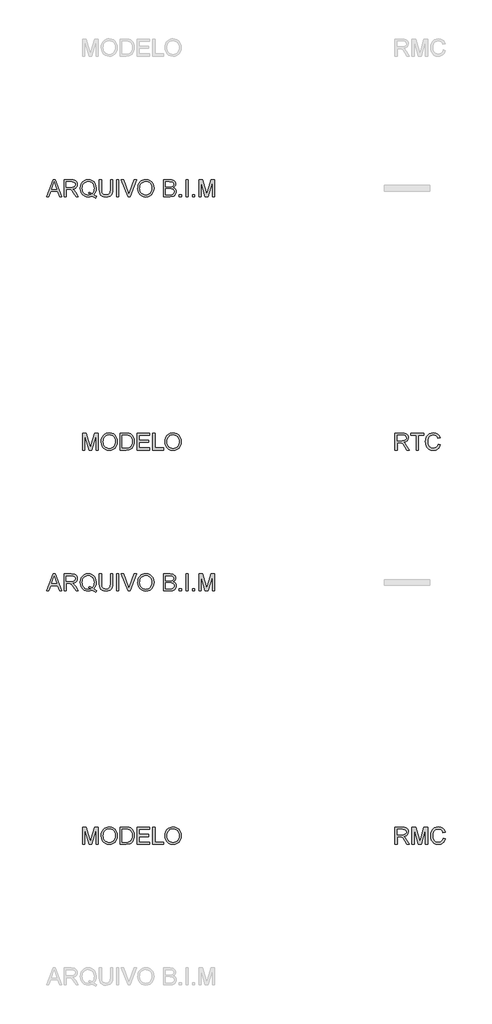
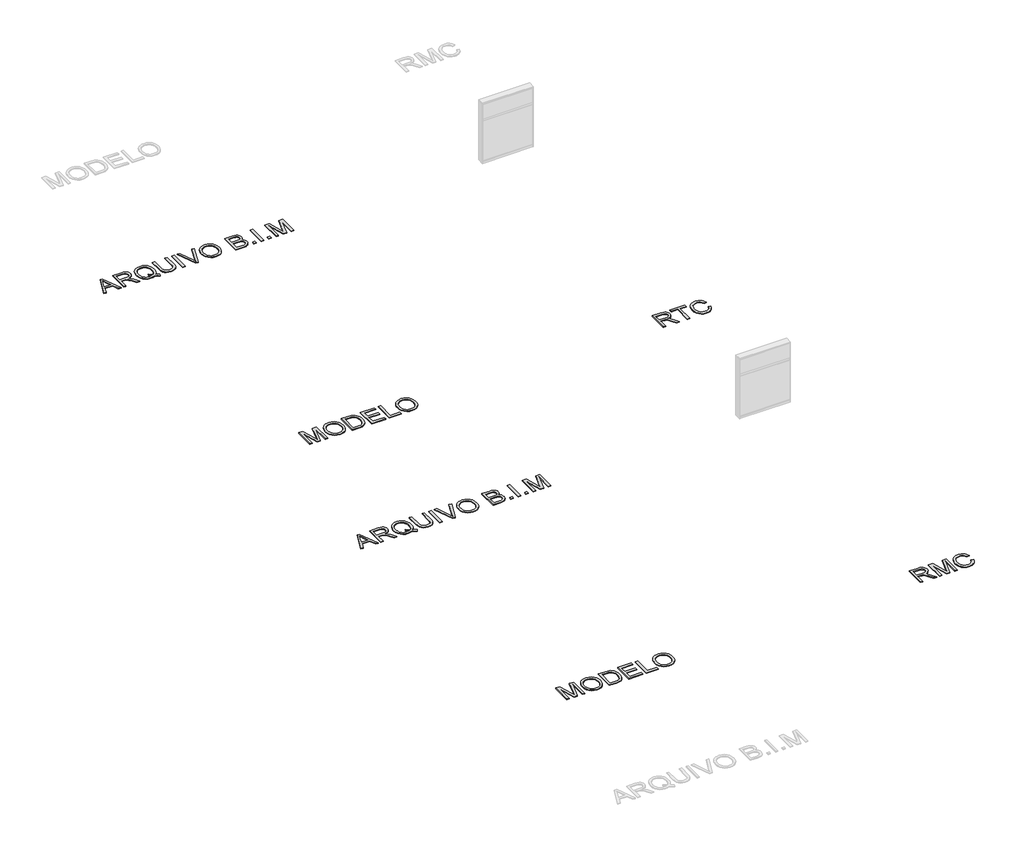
# One storey, part 10 of 15: 6 proxies.
"""IFC4 building model written with IfcOpenShell, lengths in millimetres."""

from ifc_helpers import new_model, si_unit, origin, origin_with_axes, place, context, project, spatial, polyline, outline, extrude, element, save

model = new_model("IFC4")

# Units and contexts
model_context = context("Model", 3, world=origin())
ifc_project = project(units=[si_unit("LENGTHUNIT", "METRE", prefix="MILLI")], contexts=[model_context])

# Site, building, storey
site = spatial("IfcSite", under=ifc_project)
building = spatial("IfcBuilding", under=site)
storey = spatial("IfcBuildingStorey", under=building, Name="Marelli - Linha REASONS - Planta Baixa", Elevation=0.0)

# Proxies
placement = place(None, origin())
element("IfcBuildingElementProxy", 1, Name="300mm Arial", ObjectType="300mm Arial", at=placement, inside=storey, context=model_context, shape_type="SweptSolid", body=[
    extrude(outline(polyline([(9390.580402, -56280.5663201), (9510.8778144, -55979.1973896), (9542.9571244, -55979.1973896), (9663.2545368, -56280.5663201), (9623.449705, -56280.5663201), (9588.9423738, -56186.3885293), (9464.8189886, -56186.3885293), (9430.3852339, -56280.5663201), (9390.580402, -56280.5663201)]), holes=[polyline([(9478.6513517, -56148.717413), (9575.1835872, -56148.717413), (9548.0338959, -56074.6259792), (9526.9174694, -56016.8685059), (9508.1554877, -56068.1512561), (9478.6513517, -56148.717413)])]), origin_with_axes(), (0.0, 0.0, 1.0), 10.0),
    extrude(outline(polyline([(9703.5008271, -56280.5663201), (9703.5008271, -55979.1973896), (9833.3631714, -55979.1973896), (9868.2659757, -55981.2299376), (9893.6590304, -55987.3275817), (9912.2186771, -55998.5847708), (9926.6212572, -56016.0959537), (9935.8642923, -56037.8101885), (9938.945304, -56061.6765329), (9933.8409413, -56091.3646099), (9918.5278533, -56115.9759154), (9906.9280741, -56126.0052983), (9892.5461874, -56134.0205273), (9855.4360911, -56144.0085235), (9876.8468232, -56160.1217548), (9907.3810288, -56198.8965171), (9957.6337094, -56280.5663201), (9913.855752, -56280.5663201), (9874.6395313, -56218.0999573), (9846.3126176, -56176.750021), (9826.4102017, -56157.2154871), (9808.4943485, -56150.0417882), (9786.642158, -56148.717413), (9741.1719434, -56148.717413), (9741.1719434, -56280.5663201), (9703.5008271, -56280.5663201)]), holes=[polyline([(9741.1719434, -56111.0462967), (9825.4904967, -56111.0462967), (9849.706329, -56109.7127245), (9868.4959019, -56105.7120078), (9882.6409647, -56098.7774322), (9892.9232664, -56088.6422832), (9899.1864574, -56076.3826157), (9901.2741877, -56063.0744845), (9897.2918651, -56044.6987789), (9885.3448973, -56029.8915286), (9864.7894908, -56020.1242616), (9834.9818522, -56016.8685059), (9741.1719434, -56016.8685059), (9741.1719434, -56111.0462967)])]), origin_with_axes(), (0.0, 0.0, 1.0), 10.0),
    extrude(outline(polyline([(10231.2643374, -56244.4403081), (10255.5997314, -56263.036743), (10277.9853508, -56275.8574305), (10267.8318077, -56303.4485802), (10236.7641732, -56289.0460001), (10205.8069033, -56268.205485), (10170.9500843, -56281.0077785), (10132.5983863, -56285.2752096), (10094.0627473, -56280.3547879), (10059.2427164, -56265.5935229), (10030.0788713, -56241.9203165), (10008.5117893, -56210.2640708), (9995.185264, -56172.3630282), (9990.7430889, -56129.9554312), (9995.176067, -56087.511046), (10008.4750011, -56049.0581805), (10029.9593096, -56016.9512794), (10058.9484108, -55993.5447874), (10093.639683, -55979.2525719), (10132.2305043, -55974.4885001), (10171.1248282, -55979.3629365), (10205.9908443, -55993.9862458), (10234.9339603, -56017.3835407), (10256.0595839, -56048.5799339), (10268.9722419, -56085.9199564), (10273.2764612, -56127.7481393), (10270.6644991, -56162.5313819), (10262.8286126, -56193.5990164), (10249.7136194, -56220.9142546), (10231.2643374, -56244.4403081)]), holes=[polyline([(10142.9726585, -56194.3347804), (10174.6472983, -56206.3093393), (10200.215097, -56222.9559996), (10215.6983305, -56205.4816049), (10226.7577829, -56184.1076609), (10233.3934544, -56158.8341679), (10235.6053449, -56129.6611256), (10232.478348, -56096.5057608), (10223.0973571, -56067.8201623), (10207.6922985, -56044.3308969), (10186.4930986, -56026.7645316), (10160.934497, -56015.8108452), (10132.4512335, -56012.1596164), (10110.966925, -56014.0059242), (10091.3956028, -56019.5448474), (10073.7372671, -56028.7763863), (10057.9919177, -56041.7005406), (10045.0516685, -56058.2897193), (10035.8086334, -56078.5163313), (10030.2628123, -56102.3803764), (10028.4142052, -56129.8818548), (10030.2421189, -56156.6659634), (10035.7258599, -56180.1437324), (10044.8654282, -56200.3151621), (10057.6608239, -56217.1802523), (10073.2981079, -56230.4906827), (10090.9633415, -56239.9981331), (10110.6565245, -56245.7026032), (10132.3776571, -56247.6040933), (10153.2917485, -56245.6727128), (10172.918253, -56239.8785714), (10153.6228423, -56229.853787), (10133.2605739, -56223.1767288), (10142.9726585, -56194.3347804)])]), origin_with_axes(), (0.0, 0.0, 1.0), 10.0),
    extrude(outline(polyline([(10527.5564963, -55979.1973896), (10565.2276126, -55979.1973896), (10565.2276126, -56153.0584205), (10562.6708327, -56193.7737604), (10555.0004931, -56225.1265034), (10540.6714894, -56249.3147446), (10518.1387172, -56268.5365788), (10487.3469942, -56281.0905519), (10448.2411381, -56285.2752096), (10409.9906077, -56281.6331779), (10379.4104168, -56270.7070826), (10356.4913685, -56252.8740029), (10341.2242657, -56228.5110178), (10332.6434182, -56195.8338995), (10329.7831357, -56153.0584205), (10329.7831357, -55979.1973896), (10367.454252, -55979.1973896), (10367.454252, -56151.7340454), (10369.3120561, -56185.588386), (10374.8854683, -56209.1604248), (10384.9838291, -56225.4851883), (10400.4164788, -56237.597703), (10420.5396239, -56245.1024957), (10444.709471, -56247.6040933), (10483.0243808, -56242.6560805), (10497.3671801, -56236.4710644), (10508.500209, -56227.812042), (10516.8373347, -56215.6351479), (10522.7924245, -56198.8965171), (10527.5564963, -56151.7340454), (10527.5564963, -55979.1973896)])), origin_with_axes(), (0.0, 0.0, 1.0), 10.0),
    extrude(outline(polyline([(10635.8609557, -56280.5663201), (10635.8609557, -55979.1973896), (10673.532072, -55979.1973896), (10673.532072, -56280.5663201), (10635.8609557, -56280.5663201)])), origin_with_axes(), (0.0, 0.0, 1.0), 10.0),
    extrude(outline(polyline([(10837.9017474, -56280.5663201), (10717.972217, -55979.1973896), (10758.2920837, -55979.1973896), (10838.563935, -56196.3213432), (10854.8243192, -56245.2496485), (10870.8639742, -56196.3213432), (10951.3565547, -55979.1973896), (10991.6764214, -55979.1973896), (10876.8236625, -56280.5663201), (10837.9017474, -56280.5663201)])), origin_with_axes(), (0.0, 0.0, 1.0), 10.0),
    extrude(outline(polyline([(11012.5721187, -56133.8549804), (11015.0829134, -56098.5061192), (11022.6152972, -56067.213157), (11035.1692703, -56039.9760937), (11052.7448326, -56016.7949295), (11074.288922, -55998.2858666), (11098.7484761, -55985.0651074), (11126.1234951, -55977.1326519), (11156.4139789, -55974.4885001), (11195.9428992, -55979.454907), (11231.3883295, -55994.3541278), (11260.8188891, -56018.1376988), (11282.3031976, -56049.7571563), (11295.4365848, -56087.68579), (11299.8143806, -56130.3968896), (11295.2066586, -56173.6782064), (11281.3834926, -56212.140269), (11259.1082378, -56243.8149088), (11229.1442493, -56266.733957), (11194.0023217, -56280.6398965), (11156.1932497, -56285.2752096), (11116.057324, -56280.1524528), (11080.4095587, -56264.7841825), (11051.0525754, -56240.5591531), (11029.7889961, -56208.8661192), (11016.8763381, -56172.3998164), (11012.5721187, -56133.8549804)]), holes=[polyline([(11050.2432351, -56134.2228624), (11052.126331, -56159.1974513), (11057.7756189, -56181.3669401), (11067.1910987, -56200.7313286), (11080.3727705, -56217.2906169), (11096.3963306, -56230.5527628), (11114.3374757, -56240.0257242), (11134.1962056, -56245.709501), (11155.9725205, -56247.6040933), (11178.1213158, -56245.6911069), (11198.2145706, -56239.9521478), (11216.2522846, -56230.3872159), (11232.2344581, -56216.9963113), (11245.3195608, -56200.0875351), (11254.6660627, -56179.9689885), (11260.2739639, -56156.6406715), (11262.1432643, -56130.102584), (11258.9426909, -56096.7540812), (11249.3409708, -56067.9305269), (11233.5864244, -56044.358488), (11211.9273719, -56026.7645316), (11185.7985532, -56015.8108452), (11156.6347081, -56012.1596164), (11135.6148506, -56013.9185522), (11116.1125063, -56019.1953595), (11098.1276752, -56027.9900385), (11081.6603574, -56040.302589), (11067.9153664, -56056.7262208), (11058.0975156, -56077.8541437), (11052.2068052, -56103.6863575), (11050.2432351, -56134.2228624)])]), origin_with_axes(), (0.0, 0.0, 1.0), 10.0),
    extrude(outline(polyline([(11469.334404, -56280.5663201), (11469.334404, -55979.1973896), (11584.3343156, -55979.1973896), (11615.9629702, -55981.4138786), (11640.6570491, -55988.0633457), (11659.5845778, -55999.3113377), (11673.9135815, -56015.3234015), (11682.9358874, -56034.1589597), (11685.9433227, -56053.8774346), (11683.414134, -56072.0232141), (11675.8265679, -56089.0837416), (11663.125442, -56104.0105535), (11645.2555741, -56115.7551862), (11666.6019268, -56126.9020107), (11682.3748674, -56143.8613707), (11692.1145432, -56165.5112261), (11695.3611018, -56190.7295368), (11693.1446128, -56211.7447958), (11686.4951457, -56231.2333445), (11676.5715289, -56247.8064284), (11664.5325906, -56260.0752929), (11649.7897196, -56268.9596431), (11631.7543048, -56275.3791839), (11583.4513989, -56280.5663201), (11469.334404, -56280.5663201)]), holes=[polyline([(11507.0055203, -56101.6285176), (11575.7994534, -56101.6285176), (11615.9721672, -56098.3911561), (11630.0344565, -56092.8085468), (11640.1420143, -56084.4484284), (11646.2396584, -56073.4395597), (11648.2722064, -56059.9106994), (11646.3776141, -56046.7773121), (11640.6938373, -56035.3361821), (11631.4783933, -56026.4058467), (11618.9887996, -56020.8048433), (11570.575529, -56016.8685059), (11507.0055203, -56016.8685059), (11507.0055203, -56101.6285176)]), polyline([(11507.0055203, -56242.8952038), (11584.2607393, -56242.8952038), (11612.2197709, -56241.4236758), (11635.8745832, -56233.2199073), (11651.5463562, -56216.4812765), (11656.1540782, -56204.6538704), (11657.6899855, -56191.0974188), (11655.8873637, -56175.3520694), (11650.4794984, -56161.814012), (11641.0341282, -56151.2282076), (11627.1189917, -56144.3396173), (11607.4097138, -56140.5596298), (11580.5819193, -56139.2996339), (11507.0055203, -56139.2996339), (11507.0055203, -56242.8952038)])]), origin_with_axes(), (0.0, 0.0, 1.0), 10.0),
    extrude(outline(polyline([(11751.8677763, -56280.5663201), (11751.8677763, -56242.8952038), (11789.5388926, -56242.8952038), (11789.5388926, -56280.5663201), (11751.8677763, -56280.5663201)])), origin_with_axes(), (0.0, 0.0, 1.0), 10.0),
    extrude(outline(polyline([(11869.5900147, -56280.5663201), (11869.5900147, -55979.1973896), (11907.261131, -55979.1973896), (11907.261131, -56280.5663201), (11869.5900147, -56280.5663201)])), origin_with_axes(), (0.0, 0.0, 1.0), 10.0),
    extrude(outline(polyline([(11987.3122532, -56280.5663201), (11987.3122532, -56242.8952038), (12024.9833695, -56242.8952038), (12024.9833695, -56280.5663201), (11987.3122532, -56280.5663201)])), origin_with_axes(), (0.0, 0.0, 1.0), 10.0),
    extrude(outline(polyline([(12100.3256021, -56280.5663201), (12100.3256021, -55979.1973896), (12165.1464096, -55979.1973896), (12226.803432, -56191.6124536), (12239.2378435, -56235.9790223), (12252.7023245, -56187.9336337), (12313.3292773, -55979.1973896), (12378.1500848, -55979.1973896), (12378.1500848, -56280.5663201), (12340.4789685, -56280.5663201), (12340.4789685, -56016.8685059), (12264.7688539, -56280.5663201), (12213.706833, -56280.5663201), (12137.9967184, -56016.8685059), (12137.9967184, -56280.5663201), (12100.3256021, -56280.5663201)])), origin_with_axes(), (0.0, 0.0, 1.0), 10.0),
])
element("IfcBuildingElementProxy", 2, Name="300mm Arial", ObjectType="300mm Arial", at=placement, inside=storey, context=model_context, shape_type="SweptSolid", body=[
    extrude(outline(polyline([(10033.1230948, -53780.5663201), (10033.1230948, -53479.1973896), (10097.9439023, -53479.1973896), (10159.6009247, -53691.6124536), (10172.0353362, -53735.9790223), (10185.4998172, -53687.9336337), (10246.12677, -53479.1973896), (10310.9475775, -53479.1973896), (10310.9475775, -53780.5663201), (10273.2764612, -53780.5663201), (10273.2764612, -53516.8685059), (10197.5663466, -53780.5663201), (10146.5043257, -53780.5663201), (10070.7942111, -53516.8685059), (10070.7942111, -53780.5663201), (10033.1230948, -53780.5663201)])), origin_with_axes(), (0.0, 0.0, 1.0), 10.0),
    extrude(outline(polyline([(10362.7453625, -53633.8549804), (10365.2561571, -53598.5061192), (10372.7885409, -53567.213157), (10385.342514, -53539.9760937), (10402.9180763, -53516.7949295), (10424.4621657, -53498.2858666), (10448.9217198, -53485.0651074), (10476.2967388, -53477.1326519), (10506.5872226, -53474.4885001), (10546.116143, -53479.454907), (10581.5615732, -53494.3541278), (10610.9921328, -53518.1376988), (10632.4764413, -53549.7571563), (10645.6098286, -53587.68579), (10649.9876243, -53630.3968896), (10645.3799023, -53673.6782064), (10631.5567363, -53712.140269), (10609.2814815, -53743.8149088), (10579.317493, -53766.733957), (10544.1755654, -53780.6398965), (10506.3664934, -53785.2752096), (10466.2305677, -53780.1524528), (10430.5828024, -53764.7841825), (10401.2258192, -53740.5591531), (10379.9622398, -53708.8661192), (10367.0495818, -53672.3998164), (10362.7453625, -53633.8549804)]), holes=[polyline([(10400.4164788, -53634.2228624), (10402.2995747, -53659.1974513), (10407.9488626, -53681.3669401), (10417.3643424, -53700.7313286), (10430.5460142, -53717.2906169), (10446.5695743, -53730.5527628), (10464.5107194, -53740.0257242), (10484.3694493, -53745.709501), (10506.1457642, -53747.6040933), (10528.2945596, -53745.6911069), (10548.3878143, -53739.9521478), (10566.4255284, -53730.3872159), (10582.4077018, -53716.9963113), (10595.4928045, -53700.0875351), (10604.8393064, -53679.9689885), (10610.4472076, -53656.6406715), (10612.316508, -53630.102584), (10609.1159346, -53596.7540812), (10599.5142146, -53567.9305269), (10583.7596681, -53544.358488), (10562.1006157, -53526.7645316), (10535.9717969, -53515.8108452), (10506.8079518, -53512.1596164), (10485.7880943, -53513.9185522), (10466.28575, -53519.1953595), (10448.300919, -53527.9900385), (10431.8336012, -53540.302589), (10418.0886101, -53556.7262208), (10408.2707594, -53577.8541437), (10402.3800489, -53603.6863575), (10400.4164788, -53634.2228624)])]), origin_with_axes(), (0.0, 0.0, 1.0), 10.0),
    extrude(outline(polyline([(10701.7854092, -53780.5663201), (10701.7854092, -53479.1973896), (10805.7488611, -53479.1973896), (10859.5332088, -53483.5383972), (10883.555903, -53491.9077126), (10903.826201, -53505.0962821), (10924.666716, -53528.0521186), (10939.5107545, -53556.5997614), (10948.3951047, -53590.1873876), (10951.3565547, -53628.2631741), (10949.3515979, -53660.6091985), (10943.3367273, -53689.0740679), (10934.1764656, -53713.3082943), (10922.7353355, -53732.9623899), (10909.5651601, -53748.477813), (10895.2177623, -53760.2960221), (10878.745846, -53769.0608107), (10859.202115, -53775.4159721), (10810.7520562, -53780.5663201), (10701.7854092, -53780.5663201)]), holes=[polyline([(10739.4565255, -53742.8952038), (10806.1167431, -53742.8952038), (10833.6894986, -53741.5340404), (10854.60359, -53737.4505502), (10870.3857276, -53730.8838566), (10882.5626217, -53722.0730828), (10895.6500236, -53705.7667134), (10905.48167, -53684.6594839), (10911.6344963, -53658.6594239), (10913.6854384, -53627.6745629), (10909.6663276, -53586.6189322), (10897.6089953, -53556.3054558), (10879.7943096, -53535.4833349), (10858.5031392, -53522.9017706), (10836.8348897, -53518.3768221), (10805.0866735, -53516.8685059), (10739.4565255, -53516.8685059), (10739.4565255, -53742.8952038)])]), origin_with_axes(), (0.0, 0.0, 1.0), 10.0),
    extrude(outline(polyline([(11003.1543397, -53780.5663201), (11003.1543397, -53479.1973896), (11219.7632584, -53479.1973896), (11219.7632584, -53516.8685059), (11040.825456, -53516.8685059), (11040.825456, -53606.3374072), (11210.3454794, -53606.3374072), (11210.3454794, -53644.0085235), (11040.825456, -53644.0085235), (11040.825456, -53742.8952038), (11224.472148, -53742.8952038), (11224.472148, -53780.5663201), (11003.1543397, -53780.5663201)])), origin_with_axes(), (0.0, 0.0, 1.0), 10.0),
    extrude(outline(polyline([(11280.9788224, -53780.5663201), (11280.9788224, -53479.1973896), (11318.6499387, -53479.1973896), (11318.6499387, -53742.8952038), (11469.334404, -53742.8952038), (11469.334404, -53780.5663201), (11280.9788224, -53780.5663201)])), origin_with_axes(), (0.0, 0.0, 1.0), 10.0),
    extrude(outline(polyline([(11497.5877412, -53633.8549804), (11500.0985358, -53598.5061192), (11507.6309197, -53567.213157), (11520.1848927, -53539.9760937), (11537.7604551, -53516.7949295), (11559.3045444, -53498.2858666), (11583.7640986, -53485.0651074), (11611.1391175, -53477.1326519), (11641.4296013, -53474.4885001), (11680.9585217, -53479.454907), (11716.4039519, -53494.3541278), (11745.8345115, -53518.1376988), (11767.3188201, -53549.7571563), (11780.4522073, -53587.68579), (11784.830003, -53630.3968896), (11780.222281, -53673.6782064), (11766.3991151, -53712.140269), (11744.1238603, -53743.8149088), (11714.1598717, -53766.733957), (11679.0179442, -53780.6398965), (11641.2088721, -53785.2752096), (11601.0729464, -53780.1524528), (11565.4251811, -53764.7841825), (11536.0681979, -53740.5591531), (11514.8046186, -53708.8661192), (11501.8919605, -53672.3998164), (11497.5877412, -53633.8549804)]), holes=[polyline([(11535.2588575, -53634.2228624), (11537.1419535, -53659.1974513), (11542.7912413, -53681.3669401), (11552.2067212, -53700.7313286), (11565.3883929, -53717.2906169), (11581.4119531, -53730.5527628), (11599.3530981, -53740.0257242), (11619.2118281, -53745.709501), (11640.9881429, -53747.6040933), (11663.1369383, -53745.6911069), (11683.230193, -53739.9521478), (11701.2679071, -53730.3872159), (11717.2500805, -53716.9963113), (11730.3351832, -53700.0875351), (11739.6816852, -53679.9689885), (11745.2895863, -53656.6406715), (11747.1588867, -53630.102584), (11743.9583134, -53596.7540812), (11734.3565933, -53567.9305269), (11718.6020468, -53544.358488), (11696.9429944, -53526.7645316), (11670.8141757, -53515.8108452), (11641.6503305, -53512.1596164), (11620.630473, -53513.9185522), (11601.1281287, -53519.1953595), (11583.1432977, -53527.9900385), (11566.6759799, -53540.302589), (11552.9309888, -53556.7262208), (11543.1131381, -53577.8541437), (11537.2224276, -53603.6863575), (11535.2588575, -53634.2228624)])]), origin_with_axes(), (0.0, 0.0, 1.0), 10.0),
])
element("IfcBuildingElementProxy", 3, Name="300mm Arial", ObjectType="300mm Arial", at=placement, inside=storey, context=model_context, shape_type="SweptSolid", body=[
    extrude(outline(polyline([(9390.580402, -49280.5663201), (9510.8778144, -48979.1973896), (9542.9571244, -48979.1973896), (9663.2545368, -49280.5663201), (9623.449705, -49280.5663201), (9588.9423738, -49186.3885293), (9464.8189886, -49186.3885293), (9430.3852339, -49280.5663201), (9390.580402, -49280.5663201)]), holes=[polyline([(9478.6513517, -49148.717413), (9575.1835872, -49148.717413), (9548.0338959, -49074.6259792), (9526.9174694, -49016.8685059), (9508.1554877, -49068.1512561), (9478.6513517, -49148.717413)])]), origin_with_axes(), (0.0, 0.0, 1.0), 10.0),
    extrude(outline(polyline([(9703.5008271, -49280.5663201), (9703.5008271, -48979.1973896), (9833.3631714, -48979.1973896), (9868.2659757, -48981.2299376), (9893.6590304, -48987.3275817), (9912.2186771, -48998.5847708), (9926.6212572, -49016.0959537), (9935.8642923, -49037.8101885), (9938.945304, -49061.6765329), (9933.8409413, -49091.3646099), (9918.5278533, -49115.9759154), (9906.9280741, -49126.0052983), (9892.5461874, -49134.0205273), (9855.4360911, -49144.0085235), (9876.8468232, -49160.1217548), (9907.3810288, -49198.8965171), (9957.6337094, -49280.5663201), (9913.855752, -49280.5663201), (9874.6395313, -49218.0999573), (9846.3126176, -49176.750021), (9826.4102017, -49157.2154871), (9808.4943485, -49150.0417882), (9786.642158, -49148.717413), (9741.1719434, -49148.717413), (9741.1719434, -49280.5663201), (9703.5008271, -49280.5663201)]), holes=[polyline([(9741.1719434, -49111.0462967), (9825.4904967, -49111.0462967), (9849.706329, -49109.7127245), (9868.4959019, -49105.7120078), (9882.6409647, -49098.7774322), (9892.9232664, -49088.6422832), (9899.1864574, -49076.3826157), (9901.2741877, -49063.0744845), (9897.2918651, -49044.6987789), (9885.3448973, -49029.8915286), (9864.7894908, -49020.1242616), (9834.9818522, -49016.8685059), (9741.1719434, -49016.8685059), (9741.1719434, -49111.0462967)])]), origin_with_axes(), (0.0, 0.0, 1.0), 10.0),
    extrude(outline(polyline([(10231.2643374, -49244.4403081), (10255.5997314, -49263.036743), (10277.9853508, -49275.8574305), (10267.8318077, -49303.4485802), (10236.7641732, -49289.0460001), (10205.8069033, -49268.205485), (10170.9500843, -49281.0077785), (10132.5983863, -49285.2752096), (10094.0627473, -49280.3547879), (10059.2427164, -49265.5935229), (10030.0788713, -49241.9203165), (10008.5117893, -49210.2640708), (9995.185264, -49172.3630282), (9990.7430889, -49129.9554312), (9995.176067, -49087.511046), (10008.4750011, -49049.0581805), (10029.9593096, -49016.9512794), (10058.9484108, -48993.5447874), (10093.639683, -48979.2525719), (10132.2305043, -48974.4885001), (10171.1248282, -48979.3629365), (10205.9908443, -48993.9862458), (10234.9339603, -49017.3835407), (10256.0595839, -49048.5799339), (10268.9722419, -49085.9199564), (10273.2764612, -49127.7481393), (10270.6644991, -49162.5313819), (10262.8286126, -49193.5990164), (10249.7136194, -49220.9142546), (10231.2643374, -49244.4403081)]), holes=[polyline([(10142.9726585, -49194.3347804), (10174.6472983, -49206.3093393), (10200.215097, -49222.9559996), (10215.6983305, -49205.4816049), (10226.7577829, -49184.1076609), (10233.3934544, -49158.8341679), (10235.6053449, -49129.6611256), (10232.478348, -49096.5057608), (10223.0973571, -49067.8201623), (10207.6922985, -49044.3308969), (10186.4930986, -49026.7645316), (10160.934497, -49015.8108452), (10132.4512335, -49012.1596164), (10110.966925, -49014.0059242), (10091.3956028, -49019.5448474), (10073.7372671, -49028.7763863), (10057.9919177, -49041.7005406), (10045.0516685, -49058.2897193), (10035.8086334, -49078.5163313), (10030.2628123, -49102.3803764), (10028.4142052, -49129.8818548), (10030.2421189, -49156.6659634), (10035.7258599, -49180.1437324), (10044.8654282, -49200.3151621), (10057.6608239, -49217.1802523), (10073.2981079, -49230.4906827), (10090.9633415, -49239.9981331), (10110.6565245, -49245.7026032), (10132.3776571, -49247.6040933), (10153.2917485, -49245.6727128), (10172.918253, -49239.8785714), (10153.6228423, -49229.853787), (10133.2605739, -49223.1767288), (10142.9726585, -49194.3347804)])]), origin_with_axes(), (0.0, 0.0, 1.0), 10.0),
    extrude(outline(polyline([(10527.5564963, -48979.1973896), (10565.2276126, -48979.1973896), (10565.2276126, -49153.0584205), (10562.6708327, -49193.7737604), (10555.0004931, -49225.1265034), (10540.6714894, -49249.3147446), (10518.1387172, -49268.5365788), (10487.3469942, -49281.0905519), (10448.2411381, -49285.2752096), (10409.9906077, -49281.6331779), (10379.4104168, -49270.7070826), (10356.4913685, -49252.8740029), (10341.2242657, -49228.5110178), (10332.6434182, -49195.8338995), (10329.7831357, -49153.0584205), (10329.7831357, -48979.1973896), (10367.454252, -48979.1973896), (10367.454252, -49151.7340454), (10369.3120561, -49185.588386), (10374.8854683, -49209.1604248), (10384.9838291, -49225.4851883), (10400.4164788, -49237.597703), (10420.5396239, -49245.1024957), (10444.709471, -49247.6040933), (10483.0243808, -49242.6560805), (10497.3671801, -49236.4710644), (10508.500209, -49227.812042), (10516.8373347, -49215.6351479), (10522.7924245, -49198.8965171), (10527.5564963, -49151.7340454), (10527.5564963, -48979.1973896)])), origin_with_axes(), (0.0, 0.0, 1.0), 10.0),
    extrude(outline(polyline([(10635.8609557, -49280.5663201), (10635.8609557, -48979.1973896), (10673.532072, -48979.1973896), (10673.532072, -49280.5663201), (10635.8609557, -49280.5663201)])), origin_with_axes(), (0.0, 0.0, 1.0), 10.0),
    extrude(outline(polyline([(10837.9017474, -49280.5663201), (10717.972217, -48979.1973896), (10758.2920837, -48979.1973896), (10838.563935, -49196.3213432), (10854.8243192, -49245.2496485), (10870.8639742, -49196.3213432), (10951.3565547, -48979.1973896), (10991.6764214, -48979.1973896), (10876.8236625, -49280.5663201), (10837.9017474, -49280.5663201)])), origin_with_axes(), (0.0, 0.0, 1.0), 10.0),
    extrude(outline(polyline([(11012.5721187, -49133.8549804), (11015.0829134, -49098.5061192), (11022.6152972, -49067.213157), (11035.1692703, -49039.9760937), (11052.7448326, -49016.7949295), (11074.288922, -48998.2858666), (11098.7484761, -48985.0651074), (11126.1234951, -48977.1326519), (11156.4139789, -48974.4885001), (11195.9428992, -48979.454907), (11231.3883295, -48994.3541278), (11260.8188891, -49018.1376988), (11282.3031976, -49049.7571563), (11295.4365848, -49087.68579), (11299.8143806, -49130.3968896), (11295.2066586, -49173.6782064), (11281.3834926, -49212.140269), (11259.1082378, -49243.8149088), (11229.1442493, -49266.733957), (11194.0023217, -49280.6398965), (11156.1932497, -49285.2752096), (11116.057324, -49280.1524528), (11080.4095587, -49264.7841825), (11051.0525754, -49240.5591531), (11029.7889961, -49208.8661192), (11016.8763381, -49172.3998164), (11012.5721187, -49133.8549804)]), holes=[polyline([(11050.2432351, -49134.2228624), (11052.126331, -49159.1974513), (11057.7756189, -49181.3669401), (11067.1910987, -49200.7313286), (11080.3727705, -49217.2906169), (11096.3963306, -49230.5527628), (11114.3374757, -49240.0257242), (11134.1962056, -49245.709501), (11155.9725205, -49247.6040933), (11178.1213158, -49245.6911069), (11198.2145706, -49239.9521478), (11216.2522846, -49230.3872159), (11232.2344581, -49216.9963113), (11245.3195608, -49200.0875351), (11254.6660627, -49179.9689885), (11260.2739639, -49156.6406715), (11262.1432643, -49130.102584), (11258.9426909, -49096.7540812), (11249.3409708, -49067.9305269), (11233.5864244, -49044.358488), (11211.9273719, -49026.7645316), (11185.7985532, -49015.8108452), (11156.6347081, -49012.1596164), (11135.6148506, -49013.9185522), (11116.1125063, -49019.1953595), (11098.1276752, -49027.9900385), (11081.6603574, -49040.302589), (11067.9153664, -49056.7262208), (11058.0975156, -49077.8541437), (11052.2068052, -49103.6863575), (11050.2432351, -49134.2228624)])]), origin_with_axes(), (0.0, 0.0, 1.0), 10.0),
    extrude(outline(polyline([(11469.334404, -49280.5663201), (11469.334404, -48979.1973896), (11584.3343156, -48979.1973896), (11615.9629702, -48981.4138786), (11640.6570491, -48988.0633457), (11659.5845778, -48999.3113377), (11673.9135815, -49015.3234015), (11682.9358874, -49034.1589597), (11685.9433227, -49053.8774346), (11683.414134, -49072.0232141), (11675.8265679, -49089.0837416), (11663.125442, -49104.0105535), (11645.2555741, -49115.7551862), (11666.6019268, -49126.9020107), (11682.3748674, -49143.8613707), (11692.1145432, -49165.5112261), (11695.3611018, -49190.7295368), (11693.1446128, -49211.7447958), (11686.4951457, -49231.2333445), (11676.5715289, -49247.8064284), (11664.5325906, -49260.0752929), (11649.7897196, -49268.9596431), (11631.7543048, -49275.3791839), (11583.4513989, -49280.5663201), (11469.334404, -49280.5663201)]), holes=[polyline([(11507.0055203, -49101.6285176), (11575.7994534, -49101.6285176), (11615.9721672, -49098.3911561), (11630.0344565, -49092.8085468), (11640.1420143, -49084.4484284), (11646.2396584, -49073.4395597), (11648.2722064, -49059.9106994), (11646.3776141, -49046.7773121), (11640.6938373, -49035.3361821), (11631.4783933, -49026.4058467), (11618.9887996, -49020.8048433), (11570.575529, -49016.8685059), (11507.0055203, -49016.8685059), (11507.0055203, -49101.6285176)]), polyline([(11507.0055203, -49242.8952038), (11584.2607393, -49242.8952038), (11612.2197709, -49241.4236758), (11635.8745832, -49233.2199073), (11651.5463562, -49216.4812765), (11656.1540782, -49204.6538704), (11657.6899855, -49191.0974188), (11655.8873637, -49175.3520694), (11650.4794984, -49161.814012), (11641.0341282, -49151.2282076), (11627.1189917, -49144.3396173), (11607.4097138, -49140.5596298), (11580.5819193, -49139.2996339), (11507.0055203, -49139.2996339), (11507.0055203, -49242.8952038)])]), origin_with_axes(), (0.0, 0.0, 1.0), 10.0),
    extrude(outline(polyline([(11751.8677763, -49280.5663201), (11751.8677763, -49242.8952038), (11789.5388926, -49242.8952038), (11789.5388926, -49280.5663201), (11751.8677763, -49280.5663201)])), origin_with_axes(), (0.0, 0.0, 1.0), 10.0),
    extrude(outline(polyline([(11869.5900147, -49280.5663201), (11869.5900147, -48979.1973896), (11907.261131, -48979.1973896), (11907.261131, -49280.5663201), (11869.5900147, -49280.5663201)])), origin_with_axes(), (0.0, 0.0, 1.0), 10.0),
    extrude(outline(polyline([(11987.3122532, -49280.5663201), (11987.3122532, -49242.8952038), (12024.9833695, -49242.8952038), (12024.9833695, -49280.5663201), (11987.3122532, -49280.5663201)])), origin_with_axes(), (0.0, 0.0, 1.0), 10.0),
    extrude(outline(polyline([(12100.3256021, -49280.5663201), (12100.3256021, -48979.1973896), (12165.1464096, -48979.1973896), (12226.803432, -49191.6124536), (12239.2378435, -49235.9790223), (12252.7023245, -49187.9336337), (12313.3292773, -48979.1973896), (12378.1500848, -48979.1973896), (12378.1500848, -49280.5663201), (12340.4789685, -49280.5663201), (12340.4789685, -49016.8685059), (12264.7688539, -49280.5663201), (12213.706833, -49280.5663201), (12137.9967184, -49016.8685059), (12137.9967184, -49280.5663201), (12100.3256021, -49280.5663201)])), origin_with_axes(), (0.0, 0.0, 1.0), 10.0),
])
element("IfcBuildingElementProxy", 4, Name="300mm Arial", ObjectType="300mm Arial", at=placement, inside=storey, context=model_context, shape_type="SweptSolid", body=[
    extrude(outline(polyline([(10033.1230948, -60780.5663201), (10033.1230948, -60479.1973896), (10097.9439023, -60479.1973896), (10159.6009247, -60691.6124536), (10172.0353362, -60735.9790223), (10185.4998172, -60687.9336337), (10246.12677, -60479.1973896), (10310.9475775, -60479.1973896), (10310.9475775, -60780.5663201), (10273.2764612, -60780.5663201), (10273.2764612, -60516.8685059), (10197.5663466, -60780.5663201), (10146.5043257, -60780.5663201), (10070.7942111, -60516.8685059), (10070.7942111, -60780.5663201), (10033.1230948, -60780.5663201)])), origin_with_axes(), (0.0, 0.0, 1.0), 10.0),
    extrude(outline(polyline([(10362.7453625, -60633.8549804), (10365.2561571, -60598.5061192), (10372.7885409, -60567.213157), (10385.342514, -60539.9760937), (10402.9180763, -60516.7949295), (10424.4621657, -60498.2858666), (10448.9217198, -60485.0651074), (10476.2967388, -60477.1326519), (10506.5872226, -60474.4885001), (10546.116143, -60479.454907), (10581.5615732, -60494.3541278), (10610.9921328, -60518.1376988), (10632.4764413, -60549.7571563), (10645.6098286, -60587.68579), (10649.9876243, -60630.3968896), (10645.3799023, -60673.6782064), (10631.5567363, -60712.140269), (10609.2814815, -60743.8149088), (10579.317493, -60766.733957), (10544.1755654, -60780.6398965), (10506.3664934, -60785.2752096), (10466.2305677, -60780.1524528), (10430.5828024, -60764.7841825), (10401.2258192, -60740.5591531), (10379.9622398, -60708.8661192), (10367.0495818, -60672.3998164), (10362.7453625, -60633.8549804)]), holes=[polyline([(10400.4164788, -60634.2228624), (10402.2995747, -60659.1974513), (10407.9488626, -60681.3669401), (10417.3643424, -60700.7313286), (10430.5460142, -60717.2906169), (10446.5695743, -60730.5527628), (10464.5107194, -60740.0257242), (10484.3694493, -60745.709501), (10506.1457642, -60747.6040933), (10528.2945596, -60745.6911069), (10548.3878143, -60739.9521478), (10566.4255284, -60730.3872159), (10582.4077018, -60716.9963113), (10595.4928045, -60700.0875351), (10604.8393064, -60679.9689885), (10610.4472076, -60656.6406715), (10612.316508, -60630.102584), (10609.1159346, -60596.7540812), (10599.5142146, -60567.9305269), (10583.7596681, -60544.358488), (10562.1006157, -60526.7645316), (10535.9717969, -60515.8108452), (10506.8079518, -60512.1596164), (10485.7880943, -60513.9185522), (10466.28575, -60519.1953595), (10448.300919, -60527.9900385), (10431.8336012, -60540.302589), (10418.0886101, -60556.7262208), (10408.2707594, -60577.8541437), (10402.3800489, -60603.6863575), (10400.4164788, -60634.2228624)])]), origin_with_axes(), (0.0, 0.0, 1.0), 10.0),
    extrude(outline(polyline([(10701.7854092, -60780.5663201), (10701.7854092, -60479.1973896), (10805.7488611, -60479.1973896), (10859.5332088, -60483.5383972), (10883.555903, -60491.9077126), (10903.826201, -60505.0962821), (10924.666716, -60528.0521186), (10939.5107545, -60556.5997614), (10948.3951047, -60590.1873876), (10951.3565547, -60628.2631741), (10949.3515979, -60660.6091985), (10943.3367273, -60689.0740679), (10934.1764656, -60713.3082943), (10922.7353355, -60732.9623899), (10909.5651601, -60748.477813), (10895.2177623, -60760.2960221), (10878.745846, -60769.0608107), (10859.202115, -60775.4159721), (10810.7520562, -60780.5663201), (10701.7854092, -60780.5663201)]), holes=[polyline([(10739.4565255, -60742.8952038), (10806.1167431, -60742.8952038), (10833.6894986, -60741.5340404), (10854.60359, -60737.4505502), (10870.3857276, -60730.8838566), (10882.5626217, -60722.0730828), (10895.6500236, -60705.7667134), (10905.48167, -60684.6594839), (10911.6344963, -60658.6594239), (10913.6854384, -60627.6745629), (10909.6663276, -60586.6189322), (10897.6089953, -60556.3054558), (10879.7943096, -60535.4833349), (10858.5031392, -60522.9017706), (10836.8348897, -60518.3768221), (10805.0866735, -60516.8685059), (10739.4565255, -60516.8685059), (10739.4565255, -60742.8952038)])]), origin_with_axes(), (0.0, 0.0, 1.0), 10.0),
    extrude(outline(polyline([(11003.1543397, -60780.5663201), (11003.1543397, -60479.1973896), (11219.7632584, -60479.1973896), (11219.7632584, -60516.8685059), (11040.825456, -60516.8685059), (11040.825456, -60606.3374072), (11210.3454794, -60606.3374072), (11210.3454794, -60644.0085235), (11040.825456, -60644.0085235), (11040.825456, -60742.8952038), (11224.472148, -60742.8952038), (11224.472148, -60780.5663201), (11003.1543397, -60780.5663201)])), origin_with_axes(), (0.0, 0.0, 1.0), 10.0),
    extrude(outline(polyline([(11280.9788224, -60780.5663201), (11280.9788224, -60479.1973896), (11318.6499387, -60479.1973896), (11318.6499387, -60742.8952038), (11469.334404, -60742.8952038), (11469.334404, -60780.5663201), (11280.9788224, -60780.5663201)])), origin_with_axes(), (0.0, 0.0, 1.0), 10.0),
    extrude(outline(polyline([(11497.5877412, -60633.8549804), (11500.0985358, -60598.5061192), (11507.6309197, -60567.213157), (11520.1848927, -60539.9760937), (11537.7604551, -60516.7949295), (11559.3045444, -60498.2858666), (11583.7640986, -60485.0651074), (11611.1391175, -60477.1326519), (11641.4296013, -60474.4885001), (11680.9585217, -60479.454907), (11716.4039519, -60494.3541278), (11745.8345115, -60518.1376988), (11767.3188201, -60549.7571563), (11780.4522073, -60587.68579), (11784.830003, -60630.3968896), (11780.222281, -60673.6782064), (11766.3991151, -60712.140269), (11744.1238603, -60743.8149088), (11714.1598717, -60766.733957), (11679.0179442, -60780.6398965), (11641.2088721, -60785.2752096), (11601.0729464, -60780.1524528), (11565.4251811, -60764.7841825), (11536.0681979, -60740.5591531), (11514.8046186, -60708.8661192), (11501.8919605, -60672.3998164), (11497.5877412, -60633.8549804)]), holes=[polyline([(11535.2588575, -60634.2228624), (11537.1419535, -60659.1974513), (11542.7912413, -60681.3669401), (11552.2067212, -60700.7313286), (11565.3883929, -60717.2906169), (11581.4119531, -60730.5527628), (11599.3530981, -60740.0257242), (11619.2118281, -60745.709501), (11640.9881429, -60747.6040933), (11663.1369383, -60745.6911069), (11683.230193, -60739.9521478), (11701.2679071, -60730.3872159), (11717.2500805, -60716.9963113), (11730.3351832, -60700.0875351), (11739.6816852, -60679.9689885), (11745.2895863, -60656.6406715), (11747.1588867, -60630.102584), (11743.9583134, -60596.7540812), (11734.3565933, -60567.9305269), (11718.6020468, -60544.358488), (11696.9429944, -60526.7645316), (11670.8141757, -60515.8108452), (11641.6503305, -60512.1596164), (11620.630473, -60513.9185522), (11601.1281287, -60519.1953595), (11583.1432977, -60527.9900385), (11566.6759799, -60540.302589), (11552.9309888, -60556.7262208), (11543.1131381, -60577.8541437), (11537.2224276, -60603.6863575), (11535.2588575, -60634.2228624)])]), origin_with_axes(), (0.0, 0.0, 1.0), 10.0),
])
element("IfcBuildingElementProxy", 5, Name="300mm Arial", ObjectType="300mm Arial", at=placement, inside=storey, context=model_context, shape_type="SweptSolid", body=[
    extrude(outline(polyline([(15588.7720603, -53780.5663201), (15588.7720603, -53479.1973896), (15718.6344046, -53479.1973896), (15753.5372089, -53481.2299376), (15778.9302636, -53487.3275817), (15797.4899103, -53498.5847708), (15811.8924904, -53516.0959537), (15821.1355255, -53537.8101885), (15824.2165372, -53561.6765329), (15819.1121745, -53591.3646099), (15803.7990865, -53615.9759154), (15792.1993073, -53626.0052983), (15777.8174206, -53634.0205273), (15740.7073243, -53644.0085235), (15762.1180564, -53660.1217548), (15792.652262, -53698.8965171), (15842.9049426, -53780.5663201), (15799.1269851, -53780.5663201), (15759.9107645, -53718.0999573), (15731.5838508, -53676.750021), (15711.6814349, -53657.2154871), (15693.7655817, -53650.0417882), (15671.9133912, -53648.717413), (15626.4431766, -53648.717413), (15626.4431766, -53780.5663201), (15588.7720603, -53780.5663201)]), holes=[polyline([(15626.4431766, -53611.0462967), (15710.7617299, -53611.0462967), (15734.9775622, -53609.7127245), (15753.7671351, -53605.7120078), (15767.9121979, -53598.7774322), (15778.1944996, -53588.6422832), (15784.4576906, -53576.3826157), (15786.5454209, -53563.0744845), (15782.5630983, -53544.6987789), (15770.6161305, -53529.8915286), (15750.060724, -53520.1242616), (15720.2530854, -53516.8685059), (15626.4431766, -53516.8685059), (15626.4431766, -53611.0462967)])]), origin_with_axes(), (0.0, 0.0, 1.0), 10.0),
    extrude(outline(polyline([(15965.4832234, -53780.5663201), (15965.4832234, -53516.8685059), (15866.5965431, -53516.8685059), (15866.5965431, -53479.1973896), (16102.04102, -53479.1973896), (16102.04102, -53516.8685059), (16003.1543397, -53516.8685059), (16003.1543397, -53780.5663201), (15965.4832234, -53780.5663201)])), origin_with_axes(), (0.0, 0.0, 1.0), 10.0),
    extrude(outline(polyline([(16356.321055, -53673.4390831), (16393.9921713, -53683.1511677), (16386.5379624, -53706.5783531), (16376.6097471, -53727.0486868), (16364.2075253, -53744.5621691), (16349.3312971, -53759.1187997), (16332.3167549, -53770.5622291), (16313.4995908, -53778.7361071), (16292.879805, -53783.640434), (16270.4573974, -53785.2752096), (16226.7622134, -53780.3271968), (16192.0617442, -53765.4831583), (16165.4638759, -53741.2581289), (16146.0764948, -53708.1671434), (16134.2398916, -53669.2636224), (16130.2943572, -53627.6009865), (16134.7549264, -53583.6574821), (16148.136634, -53545.7104543), (16169.7405041, -53514.9647166), (16198.8675611, -53492.6250824), (16233.4116805, -53479.0226457), (16271.2667378, -53474.4885001), (16312.5706888, -53480.3562179), (16330.539425, -53487.6908652), (16346.719335, -53497.9593714), (16360.8437043, -53510.8904235), (16372.6458186, -53526.2127086), (16389.2832818, -53564.0309777), (16351.6121655, -53573.0072984), (16338.5523547, -53545.5357104), (16320.7100779, -53526.6909552), (16297.864606, -53515.7924511), (16269.7952098, -53512.1596164), (16237.4399883, -53516.1879242), (16210.8605141, -53528.2728478), (16190.6913838, -53547.1451941), (16177.5671936, -53571.5357704), (16170.3659035, -53599.1085259), (16167.9654735, -53627.5274101), (16170.8073619, -53662.3290468), (16179.3330272, -53692.421794), (16193.864366, -53716.6560205), (16214.7232751, -53733.8820949), (16239.7300537, -53744.1735937), (16266.705001, -53747.6040933), (16298.1497146, -53742.931992), (16324.3521097, -53728.9156879), (16344.1349639, -53705.702334), (16356.321055, -53673.4390831)])), origin_with_axes(), (0.0, 0.0, 1.0), 10.0),
])
element("IfcBuildingElementProxy", 6, Name="300mm Arial", ObjectType="300mm Arial", at=placement, inside=storey, context=model_context, shape_type="SweptSolid", body=[
    extrude(outline(polyline([(15588.7720603, -60780.5663201), (15588.7720603, -60479.1973896), (15718.6344046, -60479.1973896), (15753.5372089, -60481.2299376), (15778.9302636, -60487.3275817), (15797.4899103, -60498.5847708), (15811.8924904, -60516.0959537), (15821.1355255, -60537.8101885), (15824.2165372, -60561.6765329), (15819.1121745, -60591.3646099), (15803.7990865, -60615.9759154), (15792.1993073, -60626.0052983), (15777.8174206, -60634.0205273), (15740.7073243, -60644.0085235), (15762.1180564, -60660.1217548), (15792.652262, -60698.8965171), (15842.9049426, -60780.5663201), (15799.1269851, -60780.5663201), (15759.9107645, -60718.0999573), (15731.5838508, -60676.750021), (15711.6814349, -60657.2154871), (15693.7655817, -60650.0417882), (15671.9133912, -60648.717413), (15626.4431766, -60648.717413), (15626.4431766, -60780.5663201), (15588.7720603, -60780.5663201)]), holes=[polyline([(15626.4431766, -60611.0462967), (15710.7617299, -60611.0462967), (15734.9775622, -60609.7127245), (15753.7671351, -60605.7120078), (15767.9121979, -60598.7774322), (15778.1944996, -60588.6422832), (15784.4576906, -60576.3826157), (15786.5454209, -60563.0744845), (15782.5630983, -60544.6987789), (15770.6161305, -60529.8915286), (15750.060724, -60520.1242616), (15720.2530854, -60516.8685059), (15626.4431766, -60516.8685059), (15626.4431766, -60611.0462967)])]), origin_with_axes(), (0.0, 0.0, 1.0), 10.0),
    extrude(outline(polyline([(15890.1409908, -60780.5663201), (15890.1409908, -60479.1973896), (15954.9617983, -60479.1973896), (16016.6188207, -60691.6124536), (16029.0532321, -60735.9790223), (16042.5177132, -60687.9336337), (16103.144666, -60479.1973896), (16167.9654735, -60479.1973896), (16167.9654735, -60780.5663201), (16130.2943572, -60780.5663201), (16130.2943572, -60516.8685059), (16054.5842426, -60780.5663201), (16003.5222217, -60780.5663201), (15927.8121071, -60516.8685059), (15927.8121071, -60780.5663201), (15890.1409908, -60780.5663201)])), origin_with_axes(), (0.0, 0.0, 1.0), 10.0),
    extrude(outline(polyline([(16445.7899563, -60673.4390831), (16483.4610726, -60683.1511677), (16476.0068636, -60706.5783531), (16466.0786483, -60727.0486868), (16453.6764265, -60744.5621691), (16438.8001984, -60759.1187997), (16421.7856561, -60770.5622291), (16402.968492, -60778.7361071), (16382.3487062, -60783.640434), (16359.9262986, -60785.2752096), (16316.2311146, -60780.3271968), (16281.5306454, -60765.4831583), (16254.9327772, -60741.2581289), (16235.545396, -60708.1671434), (16223.7087928, -60669.2636224), (16219.7632584, -60627.6009865), (16224.2238276, -60583.6574821), (16237.6055352, -60545.7104543), (16259.2094054, -60514.9647166), (16288.3364623, -60492.6250824), (16322.8805817, -60479.0226457), (16360.735639, -60474.4885001), (16402.03959, -60480.3562179), (16420.0083262, -60487.6908652), (16436.1882362, -60497.9593714), (16450.3126055, -60510.8904235), (16462.1147198, -60526.2127086), (16478.752183, -60564.0309777), (16441.0810667, -60573.0072984), (16428.0212559, -60545.5357104), (16410.1789791, -60526.6909552), (16387.3335072, -60515.7924511), (16359.264111, -60512.1596164), (16326.9088895, -60516.1879242), (16300.3294154, -60528.2728478), (16280.160285, -60547.1451941), (16267.0360948, -60571.5357704), (16259.8348048, -60599.1085259), (16257.4343747, -60627.5274101), (16260.2762631, -60662.3290468), (16268.8019284, -60692.421794), (16283.3332672, -60716.6560205), (16304.1921763, -60733.8820949), (16329.1989549, -60744.1735937), (16356.1739022, -60747.6040933), (16387.6186158, -60742.931992), (16413.8210109, -60728.9156879), (16433.6038652, -60705.702334), (16445.7899563, -60673.4390831)])), origin_with_axes(), (0.0, 0.0, 1.0), 10.0),
])

save(model, "model.ifc")
